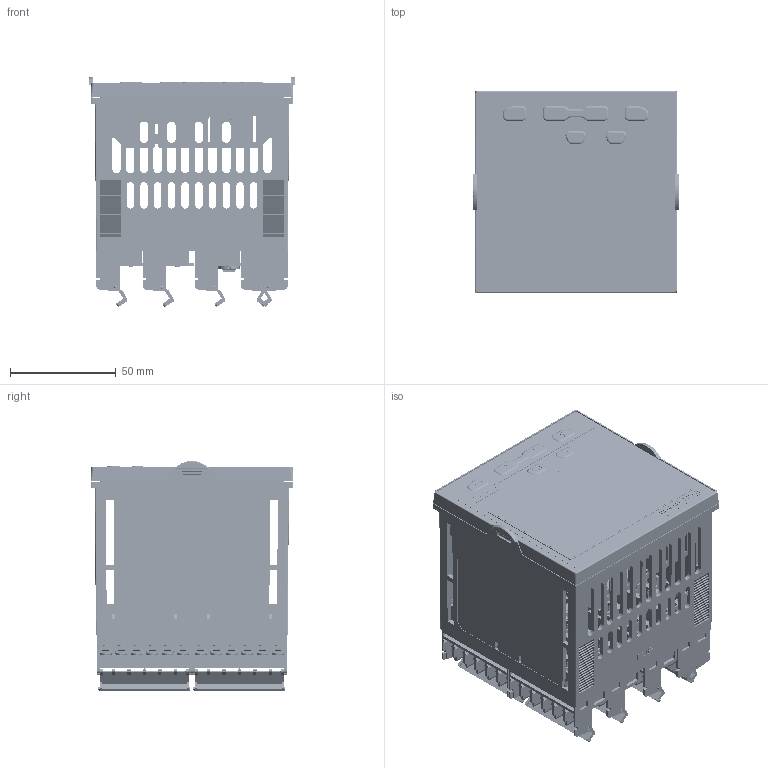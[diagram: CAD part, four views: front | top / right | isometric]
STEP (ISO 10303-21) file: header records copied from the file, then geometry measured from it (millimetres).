
FILE_DESCRIPTION((''),'2;1');
FILE_NAME('P104_IGES','2012-12-13T',('chrisloe'),(''),'PRO/ENGINEER BY PARAMETRIC TECHNOLOGY CORPORATION, 2010180','PRO/ENGINEER BY PARAMETRIC TECHNOLOGY CORPORATION, 2010180','');
FILE_SCHEMA(('CONFIG_CONTROL_DESIGN'));
Products named in the file (1): P104_IGES
Bounding box: 97.9 x 96 x 109.01 mm (x, y, z)
Volume: 174604.2 mm3; surface area: 239068.4 mm2
Topology: 1 solids, 215 shells, 25482 faces, 69750 edges, 44480 vertices
Faces by surface type: plane 20675, cylinder 3856, cone 511, torus 251, bspline 127, extrusion 44, sphere 18
Entity records: 810705 total; most frequent: CARTESIAN_POINT 173720, ORIENTED_EDGE 139074, DIRECTION 121868, EDGE_CURVE 69657, VECTOR 55006, LINE 54962, VERTEX_POINT 44480, AXIS2_PLACEMENT_3D 33431
